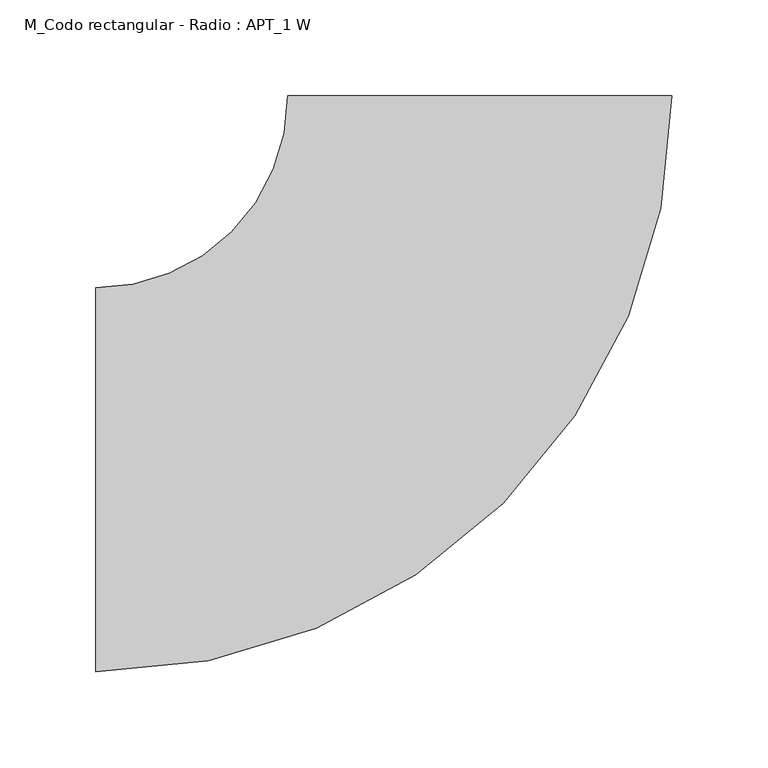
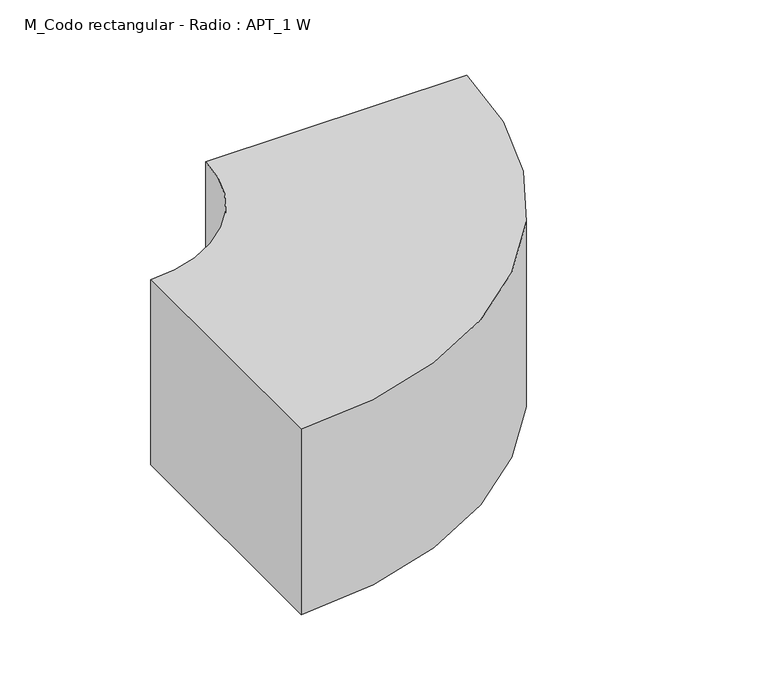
"""IFC4 building model written with IfcOpenShell, lengths in millimetres: duct fitting geometry, M_Codo rectangular - Radio : APT_1 W."""

from ifc_helpers import new_model, si_unit, point, frame, frame_2d, origin, place, context, project, spatial, polyline, circle_curve, trimmed, segment, composite_curve, outline, extrude, source, transform, mapped, element, save


def m_codo_rectangular_radio_apt_1_w_a605e9b7(model_context):
    return source(origin(), model_context, "Body", "SweptSolid", [
        extrude(outline(composite_curve([segment(trimmed(circle_curve(frame_2d((-200.0, 200.0)), 300.0), [point((100.0, 200.0))], [point((-200.0, -100.0))], False, "CARTESIAN"), True, "CONTINUOUS"), segment(polyline([(-200.0, -100.0), (-200.0, 100.0)]), True, "CONTINUOUS"), segment(trimmed(circle_curve(frame_2d((-200.0, 200.0)), 100.0), [point((-200.0, 100.0))], [point((-100.0, 200.0))], True, "CARTESIAN"), True, "CONTINUOUS"), segment(polyline([(-100.0, 200.0), (100.0, 200.0)]), True, "CONTINUOUS")], self_intersect=False)), frame((0.0, 0.0, -75.0), z_axis=(0.0, 0.0, 1.0), x_axis=(1.0, 0.0, 0.0)), (0.0, 0.0, 1.0), 150.0),
    ])


if __name__ == "__main__":
    model = new_model("IFC4")
    model_context = context("Model", 3, world=origin())
    ifc_project = project(units=[si_unit("LENGTHUNIT", "METRE", prefix="MILLI")], contexts=[model_context])
    site = spatial("IfcSite", under=ifc_project)
    building = spatial("IfcBuilding", under=site)
    placement = place(None, origin())
    m_codo_rectangular_radio_apt_1_w_shape = m_codo_rectangular_radio_apt_1_w_a605e9b7(model_context)
    element("IfcDuctFitting", 1, ObjectType="M_Codo rectangular - Radio : APT_1 W", at=placement, inside=building, context=model_context, shape_type="MappedRepresentation", body=[
        mapped(m_codo_rectangular_radio_apt_1_w_shape, transform((0.0, 0.0, 0.0), x_axis=(1.0, 0.0, 0.0), y_axis=(0.0, 1.0, 0.0), z_axis=(0.0, 0.0, 1.0))),
    ])
    save(model, "model.ifc")
